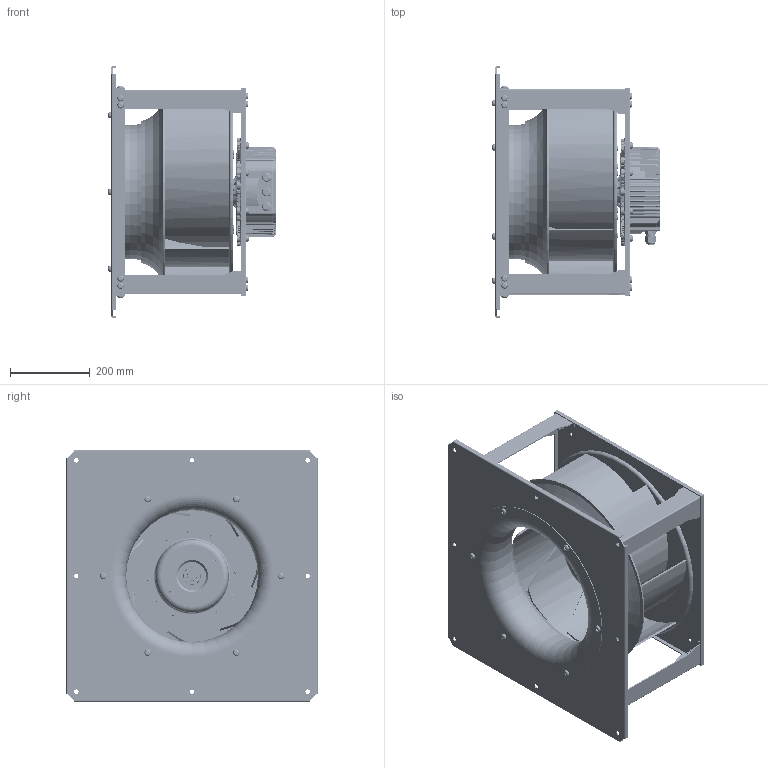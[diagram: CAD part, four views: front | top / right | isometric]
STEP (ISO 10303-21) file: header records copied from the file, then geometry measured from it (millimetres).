
FILE_DESCRIPTION((''),'2;1');
FILE_NAME('GTM050NUT34R_ASM','2019-11-26T',('MINGHAN.CHUNG'),(''),'CREO PARAMETRIC BY PTC INC, 2015080','CREO PARAMETRIC BY PTC INC, 2015080','');
FILE_SCHEMA(('CONFIG_CONTROL_DESIGN'));
Products named in the file (26): TOP-PLATE; SUPPORT-2; SUPPORT-22R; BOTTOM-PLATE; 3105605500--T45--M8--L20; FRAME-50-34R_ASM; 3329061100--CASE; 3329061100--BUSHING; 3329061100--SHAFT; ROTOR-ASSEMBLY_ASM; 4101288800--15NM-PILLOW; PILLOW-WINDING-ASSEMBLY_ASM; OD150-CAP; CAP-COVER; CABLE-GLAND-M20; SCREW-M4-10-SLOT; SCREW-M5-12; OD150-CAP-ASSY_ASM; OD150-15NM_ASM; R63B2-500X160--TOP-BOTTOM; R63B2-500X160--BLADE; R63B2-500X160_ASM; GTB050NUT34R_ASM; PUNKER-NOZZLE-ED11-500S; 3105652900--T50--M10--L20; GTM050NUT34R_ASM
Assembly tree (83 placements, depth 5):
  GTM050NUT34R_ASM
    FRAME-50-34R_ASM
      TOP-PLATE
      SUPPORT-2  x4
      SUPPORT-22R  x4
      BOTTOM-PLATE
      3105605500--T45--M8--L20  x24
    GTB050NUT34R_ASM
      OD150-15NM_ASM
        ROTOR-ASSEMBLY_ASM
          3329061100--CASE
          3329061100--BUSHING
          3329061100--SHAFT
        PILLOW-WINDING-ASSEMBLY_ASM
          4101288800--15NM-PILLOW
        OD150-CAP-ASSY_ASM
          OD150-CAP
          CAP-COVER
          CABLE-GLAND-M20  x3
          SCREW-M4-10-SLOT  x4
          SCREW-M5-12  x6
      R63B2-500X160_ASM
        R63B2-500X160--TOP-BOTTOM
        R63B2-500X160--BLADE  x7
    PUNKER-NOZZLE-ED11-500S
    3105605500--T45--M8--L20  x6
    3105652900--T50--M10--L20  x8
Bounding box: 420.5 x 630 x 630 mm (x, y, z)
Volume: 7340846 mm3; surface area: 4103424.2 mm2
Topology: 94 solids, 99 shells, 7939 faces, 19608 edges, 11906 vertices
Faces by surface type: cylinder 2821, bspline 1819, plane 1636, torus 864, cone 436, extrusion 201, sphere 97, revolution 65
Entity records: 348704 total; most frequent: CARTESIAN_POINT 208816, ORIENTED_EDGE 31280, DIRECTION 25823, EDGE_CURVE 15640, AXIS2_PLACEMENT_3D 10541, VERTEX_POINT 9449, EDGE_LOOP 6749, FACE_OUTER_BOUND 6387
